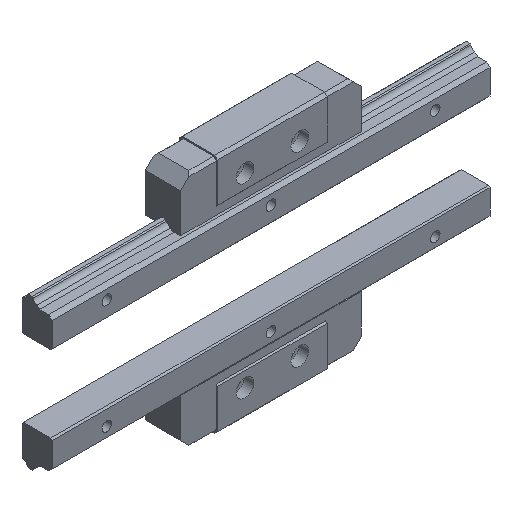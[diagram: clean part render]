
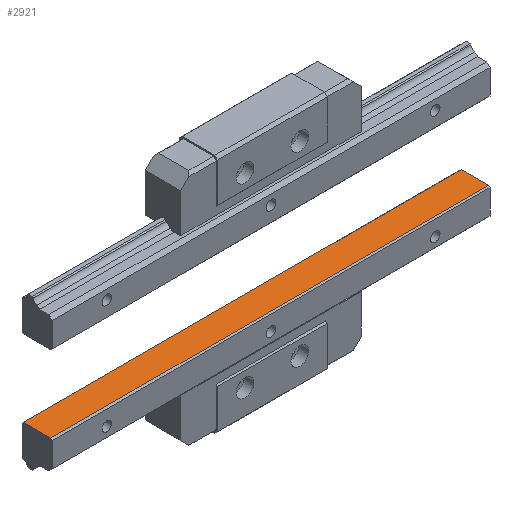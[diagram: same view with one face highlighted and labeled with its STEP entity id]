
A CAD part, isometric view. The second image highlights one B-rep face of the part: STEP entity #2921.
In plain terms, the highlighted planar face has unit normal (0, 0, 1) as drawn and (-1, 0, 0) by its records, which use the part's own axes.
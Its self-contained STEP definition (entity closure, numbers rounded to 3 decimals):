
#544=ORIENTED_EDGE('',*,*,#1132,.T.);
#545=ORIENTED_EDGE('',*,*,#1133,.F.);
#546=ORIENTED_EDGE('',*,*,#1134,.F.);
#547=ORIENTED_EDGE('',*,*,#1135,.T.);
#1132=EDGE_CURVE('',#1467,#1468,#1768,.T.);
#1133=EDGE_CURVE('',#1469,#1468,#1769,.T.);
#1134=EDGE_CURVE('',#1470,#1469,#1770,.T.);
#1135=EDGE_CURVE('',#1470,#1467,#1771,.T.);
#1467=VERTEX_POINT('',#4515);
#1468=VERTEX_POINT('',#4516);
#1469=VERTEX_POINT('',#4518);
#1470=VERTEX_POINT('',#4520);
#1768=LINE('',#4514,#2092);
#1769=LINE('',#4517,#2093);
#1770=LINE('',#4519,#2094);
#1771=LINE('',#4521,#2095);
#2092=VECTOR('',#3694,1000.);
#2093=VECTOR('',#3695,1000.);
#2094=VECTOR('',#3696,1000.);
#2095=VECTOR('',#3697,1000.);
#2368=EDGE_LOOP('',(#544,#545,#546,#547));
#2597=FACE_BOUND('',#2368,.T.);
#2775=PLANE('',#3171);
#2921=ADVANCED_FACE('',(#2597),#2775,.F.);
#3171=AXIS2_PLACEMENT_3D('',#4513,#3692,#3693);
#3692=DIRECTION('',(1.,0.,0.));
#3693=DIRECTION('',(0.,0.,-1.));
#3694=DIRECTION('',(0.,-1.,0.));
#3695=DIRECTION('',(0.,0.,-1.));
#3696=DIRECTION('',(0.,-1.,0.));
#3697=DIRECTION('',(0.,0.,-1.));
#4513=CARTESIAN_POINT('',(0.,10.5,140.));
#4514=CARTESIAN_POINT('',(0.,10.5,-20.));
#4515=CARTESIAN_POINT('',(0.,10.5,-20.));
#4516=CARTESIAN_POINT('',(0.,0.5,-20.));
#4517=CARTESIAN_POINT('',(0.,0.5,140.));
#4518=CARTESIAN_POINT('',(0.,0.5,140.));
#4519=CARTESIAN_POINT('',(0.,10.5,140.));
#4520=CARTESIAN_POINT('',(0.,10.5,140.));
#4521=CARTESIAN_POINT('',(0.,10.5,140.));
